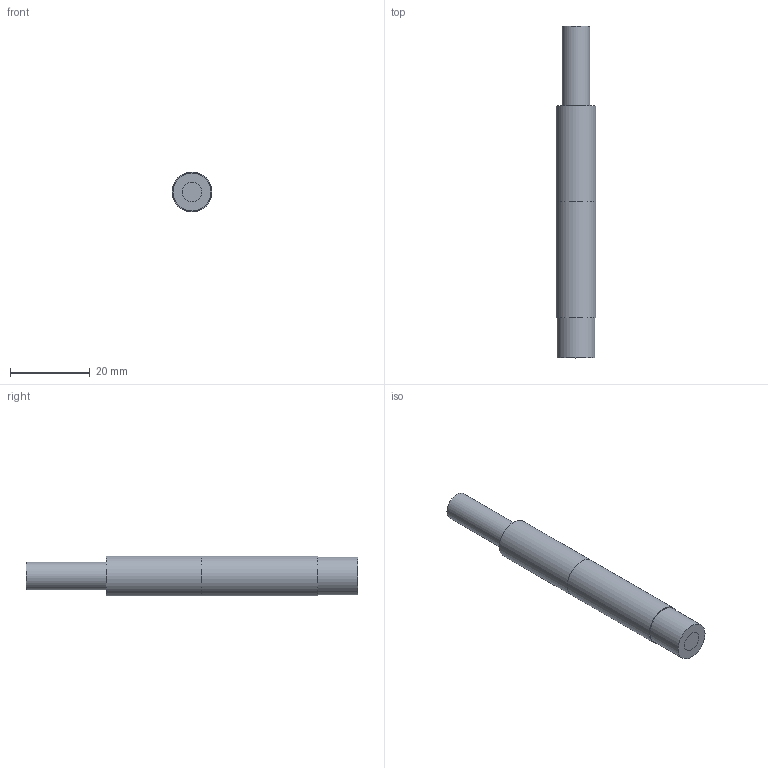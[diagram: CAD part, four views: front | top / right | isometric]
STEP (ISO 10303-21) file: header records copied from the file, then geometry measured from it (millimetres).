
FILE_DESCRIPTION(/* description */ (''),/* implementation_level */ '2;1');
FILE_NAME(/* name */ '',/* time_stamp */ '2023-05-29T12:54:10+09:00',/* author */ (''),/* organization */ (''),/* preprocessor_version */ 'ST-DEVELOPER v19.2',/* originating_system */ 'Autodesk Translation Framework v11.17.0.187',/* authorisation */ '');
FILE_SCHEMA (('AUTOMOTIVE_DESIGN { 1 0 10303 214 3 1 1 }'));
Length unit declared in the file: millimetre
Products named in the file (1): RLGB1-5L1000 照射部
Bounding box: 10 x 83 x 10 mm (x, y, z)
Volume: 4155 mm3; surface area: 5695.7 mm2
Topology: 4 solids, 4 shells, 17 faces, 24 edges, 16 vertices
Faces by surface type: plane 9, cylinder 8
Full cylindrical faces by diameter (mm): 5 x3, 7 x1, 9.5 x2, 10 x2
Entity records: 416 total; most frequent: DIRECTION 76, CARTESIAN_POINT 58, ORIENTED_EDGE 48, AXIS2_PLACEMENT_3D 34, EDGE_LOOP 24, EDGE_CURVE 24, FACE_OUTER_BOUND 17, ADVANCED_FACE 17
